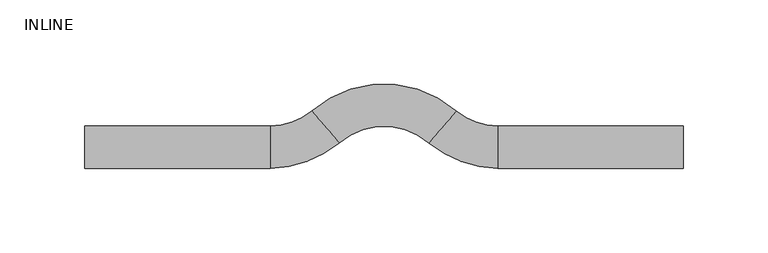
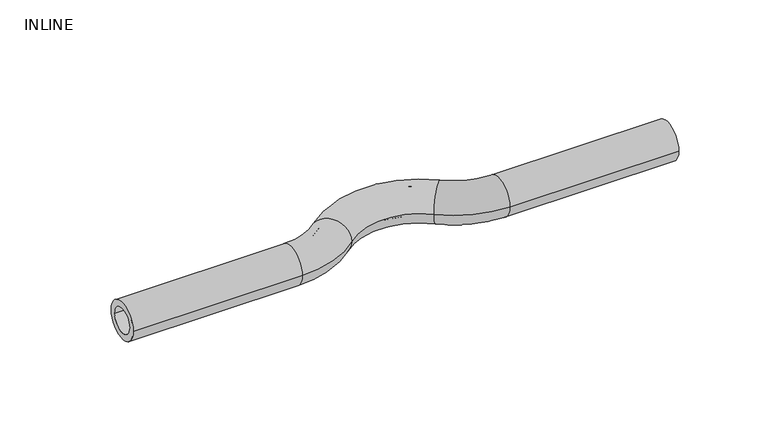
"""IFC4 building model written with IfcOpenShell, lengths in millimetres: pipe fitting geometry, Aquatherm - Cross Over : INLINE."""

from ifc_helpers import new_model, si_unit, point, frame, origin, place, context, project, spatial, polyline, circle_curve, ellipse_curve, trimmed, source, transform, mapped, element, save
from ifc_brep_helpers import plane_surface, cylinder_surface, revolved_surface, advanced_brep


def inline_d7b7e34d(model_context):
    return source(origin(), model_context, "Body", "AdvancedBrep", [
        advanced_brep(
        [(-176.53, -12.446, 0.0), (-176.53, 12.446, 0.0), (-176.53, -8.255, 0.0), (-176.53, 8.255, 0.0), (-67.1886415, -8.255, 0.0), (-67.1886415, 8.255, 0.0), (-67.1886415, -12.446, 0.0), (-67.1886415, 12.446, 0.0), (-39.9656575, 18.3405517, 0.0), (-29.2088553, 5.8157241, 0.0), (-42.6962303, 21.519931, 0.0), (-26.4782824, 2.6363448, 0.0), (39.9656575, 18.3405517, 0.0), (29.2088553, 5.8157241, 0.0), (42.6962303, 21.519931, 0.0), (26.4782824, 2.6363448, 0.0), (67.1886415, 8.255, 0.0), (67.1886415, -8.255, 0.0), (67.1886415, 12.446, 0.0), (67.1886415, -12.446, 0.0), (176.53, -12.446, 0.0), (176.53, 12.446, 0.0), (176.53, -8.255, 0.0), (176.53, 8.255, 0.0)],
        [
            (0, 1, circle_curve(frame((-176.53, 0.0, 0.0), z_axis=(-1.0, 0.0, 0.0), x_axis=(0.0, 1.0, 0.0)), 12.446)),
            (1, 0, circle_curve(frame((-176.53, 0.0, 0.0), z_axis=(-1.0, 0.0, 0.0), x_axis=(0.0, 1.0, 0.0)), 12.446)),
            (2, 3, circle_curve(frame((-176.53, 0.0, 0.0), z_axis=(1.0, 0.0, 0.0), x_axis=(0.0, 1.0, 0.0)), 8.255)),
            (3, 2, circle_curve(frame((-176.53, 0.0, 0.0), z_axis=(1.0, 0.0, 0.0), x_axis=(0.0, 1.0, 0.0)), 8.255)),
            (2, 4),
            (4, 5, circle_curve(frame((-67.1886415, 0.0, 0.0), z_axis=(1.0, 0.0, 0.0), x_axis=(0.0, 1.0, 0.0)), 8.255)),
            (5, 3),
            (5, 4, circle_curve(frame((-67.1886415, 0.0, 0.0), z_axis=(1.0, 0.0, 0.0), x_axis=(0.0, 1.0, 0.0)), 8.255)),
            (0, 6),
            (6, 7, circle_curve(frame((-67.1886415, 0.0, 0.0), z_axis=(-1.0, 0.0, 0.0), x_axis=(0.0, 1.0, 0.0)), 12.446)),
            (7, 1),
            (7, 6, circle_curve(frame((-67.1886415, 0.0, 0.0), z_axis=(-1.0, 0.0, 0.0), x_axis=(0.0, 1.0, 0.0)), 12.446)),
            (8, 5, circle_curve(frame((-67.1886415, 50.038, 0.0), z_axis=(0.0, 0.0, -1.0), x_axis=(0.0, -1.0, 0.0)), 41.783)),
            (4, 9, circle_curve(frame((-67.1886415, 50.038, 0.0), z_axis=(0.0, 0.0, 1.0), x_axis=(0.0, -1.0, 0.0)), 58.293)),
            (9, 8, circle_curve(frame((-34.5872564, 12.0781379, 0.0), z_axis=(0.7586206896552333, 0.651532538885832, 0.0), x_axis=(-0.651532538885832, 0.7586206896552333, 0.0)), 8.255)),
            (8, 9, circle_curve(frame((-34.5872564, 12.0781379, 0.0), z_axis=(0.7586206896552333, 0.651532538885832, 0.0), x_axis=(-0.651532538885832, 0.7586206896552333, 0.0)), 8.255)),
            (10, 7, circle_curve(frame((-67.1886415, 50.038, 0.0), z_axis=(0.0, 0.0, -1.0), x_axis=(0.0, -1.0, 0.0)), 37.592)),
            (6, 11, circle_curve(frame((-67.1886415, 50.038, 0.0), z_axis=(0.0, 0.0, 1.0), x_axis=(0.0, -1.0, 0.0)), 62.484)),
            (11, 10, circle_curve(frame((-34.5872564, 12.0781379, 0.0), z_axis=(-0.7586206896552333, -0.651532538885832, 0.0), x_axis=(-0.651532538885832, 0.7586206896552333, 0.0)), 12.446)),
            (10, 11, circle_curve(frame((-34.5872564, 12.0781379, 0.0), z_axis=(-0.7586206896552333, -0.651532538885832, 0.0), x_axis=(-0.651532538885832, 0.7586206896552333, 0.0)), 12.446)),
            (12, 8, circle_curve(frame((0.0, -28.194, 0.0), z_axis=(0.0, 0.0, 1.0), x_axis=(-0.6515325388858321, 0.7586206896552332, 0.0)), 61.341)),
            (9, 13, circle_curve(frame((0.0, -28.194, 0.0), z_axis=(0.0, 0.0, -1.0), x_axis=(-0.6515325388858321, 0.7586206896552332, 0.0)), 44.831)),
            (13, 12, circle_curve(frame((34.5872564, 12.0781379, 0.0), z_axis=(0.758620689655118, -0.6515325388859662, 0.0), x_axis=(0.6515325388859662, 0.758620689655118, 0.0)), 8.255)),
            (12, 13, circle_curve(frame((34.5872564, 12.0781379, 0.0), z_axis=(0.7586206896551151, -0.6515325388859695, 0.0), x_axis=(0.6515325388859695, 0.7586206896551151, 0.0)), 8.255)),
            (14, 10, circle_curve(frame((0.0, -28.194, 0.0), z_axis=(0.0, 0.0, 1.0), x_axis=(-0.6515325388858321, 0.7586206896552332, 0.0)), 65.532)),
            (11, 15, circle_curve(frame((0.0, -28.194, 0.0), z_axis=(0.0, 0.0, -1.0), x_axis=(-0.6515325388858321, 0.7586206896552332, 0.0)), 40.64)),
            (15, 14, circle_curve(frame((34.5872564, 12.0781379, 0.0), z_axis=(-0.7586206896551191, 0.651532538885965, 0.0), x_axis=(0.651532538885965, 0.7586206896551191, 0.0)), 12.446)),
            (14, 15, circle_curve(frame((34.5872564, 12.0781379, 0.0), z_axis=(-0.7586206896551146, 0.6515325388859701, 0.0), x_axis=(0.6515325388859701, 0.7586206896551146, 0.0)), 12.446)),
            (16, 12, circle_curve(frame((67.1886415, 50.038, 0.0), z_axis=(0.0, 0.0, -1.0), x_axis=(-0.6515325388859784, -0.7586206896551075, 0.0)), 41.783)),
            (13, 17, circle_curve(frame((67.1886415, 50.038, 0.0), z_axis=(0.0, 0.0, 1.0), x_axis=(-0.6515325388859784, -0.7586206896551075, 0.0)), 58.293)),
            (17, 16, circle_curve(frame((67.1886415, 0.0, 0.0), z_axis=(1.0, 0.0, 0.0), x_axis=(0.0, 1.0, 0.0)), 8.255)),
            (16, 17, circle_curve(frame((67.1886415, 0.0, 0.0), z_axis=(1.0, 0.0, 0.0), x_axis=(0.0, 1.0, 0.0)), 8.255)),
            (18, 14, circle_curve(frame((67.1886415, 50.038, 0.0), z_axis=(0.0, 0.0, -1.0), x_axis=(-0.6515325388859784, -0.7586206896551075, 0.0)), 37.592)),
            (15, 19, circle_curve(frame((67.1886415, 50.038, 0.0), z_axis=(0.0, 0.0, 1.0), x_axis=(-0.6515325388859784, -0.7586206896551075, 0.0)), 62.484)),
            (19, 18, circle_curve(frame((67.1886415, 0.0, 0.0), z_axis=(-1.0, 0.0, 0.0), x_axis=(0.0, 1.0, 0.0)), 12.446)),
            (18, 19, circle_curve(frame((67.1886415, 0.0, 0.0), z_axis=(-1.0, 0.0, 0.0), x_axis=(0.0, 1.0, 0.0)), 12.446)),
            (20, 21, circle_curve(frame((176.53, 0.0, 0.0), z_axis=(1.0, 0.0, 0.0), x_axis=(0.0, 1.0, 0.0)), 12.446)),
            (21, 20, circle_curve(frame((176.53, 0.0, 0.0), z_axis=(1.0, 0.0, 0.0), x_axis=(0.0, 1.0, 0.0)), 12.446)),
            (22, 23, circle_curve(frame((176.53, 0.0, 0.0), z_axis=(-1.0, 0.0, 0.0), x_axis=(0.0, 1.0, 0.0)), 8.255)),
            (23, 22, circle_curve(frame((176.53, 0.0, 0.0), z_axis=(-1.0, 0.0, 0.0), x_axis=(0.0, 1.0, 0.0)), 8.255)),
            (17, 22),
            (23, 16),
            (19, 20),
            (21, 18),
        ],
        [
            plane_surface(frame((-176.53, 0.0, 0.0), z_axis=(-1.0, 0.0, 0.0), x_axis=(0.0, 0.0, 1.0))),
            revolved_surface(polyline([(-67.1886415, 8.255, 0.0), (-176.53, 8.255, 0.0)]), (-176.53, 0.0, 0.0), (1.0, 0.0, 0.0)),
            cylinder_surface(frame((-176.53, 0.0, 0.0), z_axis=(-1.0, 0.0, 0.0), x_axis=(0.0, 1.0, 0.0)), 12.446),
            revolved_surface(trimmed(ellipse_curve(frame((-67.1886415, 0.0, 0.0), z_axis=(1.0, 0.0, 0.0), x_axis=(0.0, 1.0, 0.0)), 8.255, 8.255), [point((-67.1886415, -8.255, 0.0))], [point((-67.1886415, 8.255, 0.0))], True, "CARTESIAN"), (-67.1886415, 50.038, 0.0), (0.0, 0.0, 1.0)),
            revolved_surface(trimmed(ellipse_curve(frame((-67.1886415, 0.0, 0.0), z_axis=(1.0, 0.0, 0.0), x_axis=(0.0, 1.0, 0.0)), 8.255, 8.255), [point((-67.1886415, 8.255, 0.0))], [point((-67.1886415, -8.255, 0.0))], True, "CARTESIAN"), (-67.1886415, 50.038, 0.0), (0.0, 0.0, 1.0)),
            revolved_surface(trimmed(ellipse_curve(frame((-67.1886415, 0.0, 0.0), z_axis=(-1.0, 0.0, 0.0), x_axis=(0.0, 1.0, 0.0)), 12.446, 12.446), [point((-67.1886415, -12.446, 0.0))], [point((-67.1886415, 12.446, 0.0))], True, "CARTESIAN"), (-67.1886415, 50.038, 0.0), (0.0, 0.0, 1.0)),
            revolved_surface(trimmed(ellipse_curve(frame((-67.1886415, 0.0, 0.0), z_axis=(-1.0, 0.0, 0.0), x_axis=(0.0, 1.0, 0.0)), 12.446, 12.446), [point((-67.1886415, 12.446, 0.0))], [point((-67.1886415, -12.446, 0.0))], True, "CARTESIAN"), (-67.1886415, 50.038, 0.0), (0.0, 0.0, 1.0)),
            revolved_surface(trimmed(ellipse_curve(frame((-34.5872564, 12.0781379, 0.0), z_axis=(0.7586206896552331, 0.6515325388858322, 0.0), x_axis=(-0.6515325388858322, 0.7586206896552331, 0.0)), 8.255, 8.255), [point((-29.2088553, 5.8157241, 0.0))], [point((-39.9656575, 18.3405517, 0.0))], True, "CARTESIAN"), (0.0, -28.194, 0.0), (0.0, 0.0, -1.0)),
            revolved_surface(trimmed(ellipse_curve(frame((-34.5872564, 12.0781379, 0.0), z_axis=(0.7586206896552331, 0.6515325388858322, 0.0), x_axis=(-0.6515325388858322, 0.7586206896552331, 0.0)), 8.255, 8.255), [point((-39.9656575, 18.3405517, 0.0))], [point((-29.2088553, 5.8157241, 0.0))], True, "CARTESIAN"), (0.0, -28.194, 0.0), (0.0, 0.0, -1.0)),
            revolved_surface(trimmed(ellipse_curve(frame((-34.5872564, 12.0781379, 0.0), z_axis=(-0.7586206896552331, -0.6515325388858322, 0.0), x_axis=(-0.6515325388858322, 0.7586206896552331, 0.0)), 12.446, 12.446), [point((-26.4782824, 2.6363448, 0.0))], [point((-42.6962303, 21.519931, 0.0))], True, "CARTESIAN"), (0.0, -28.194, 0.0), (0.0, 0.0, -1.0)),
            revolved_surface(trimmed(ellipse_curve(frame((-34.5872564, 12.0781379, 0.0), z_axis=(-0.7586206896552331, -0.6515325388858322, 0.0), x_axis=(-0.6515325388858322, 0.7586206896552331, 0.0)), 12.446, 12.446), [point((-42.6962303, 21.519931, 0.0))], [point((-26.4782824, 2.6363448, 0.0))], True, "CARTESIAN"), (0.0, -28.194, 0.0), (0.0, 0.0, -1.0)),
            revolved_surface(trimmed(ellipse_curve(frame((34.5872564, 12.0781379, 0.0), z_axis=(0.7586206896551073, -0.6515325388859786, 0.0), x_axis=(0.6515325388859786, 0.7586206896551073, 0.0)), 8.255, 8.255), [point((29.2088553, 5.8157241, 0.0))], [point((39.9656575, 18.3405517, 0.0))], True, "CARTESIAN"), (67.1886415, 50.038, 0.0), (0.0, 0.0, 1.0)),
            revolved_surface(trimmed(ellipse_curve(frame((34.5872564, 12.0781379, 0.0), z_axis=(0.7586206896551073, -0.6515325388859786, 0.0), x_axis=(0.6515325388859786, 0.7586206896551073, 0.0)), 8.255, 8.255), [point((39.9656575, 18.3405517, 0.0))], [point((29.2088553, 5.8157241, 0.0))], True, "CARTESIAN"), (67.1886415, 50.038, 0.0), (0.0, 0.0, 1.0)),
            revolved_surface(trimmed(ellipse_curve(frame((34.5872564, 12.0781379, 0.0), z_axis=(-0.7586206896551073, 0.6515325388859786, 0.0), x_axis=(0.6515325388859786, 0.7586206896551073, 0.0)), 12.446, 12.446), [point((26.4782824, 2.6363448, 0.0))], [point((42.6962303, 21.519931, 0.0))], True, "CARTESIAN"), (67.1886415, 50.038, 0.0), (0.0, 0.0, 1.0)),
            revolved_surface(trimmed(ellipse_curve(frame((34.5872564, 12.0781379, 0.0), z_axis=(-0.7586206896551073, 0.6515325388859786, 0.0), x_axis=(0.6515325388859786, 0.7586206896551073, 0.0)), 12.446, 12.446), [point((42.6962303, 21.519931, 0.0))], [point((26.4782824, 2.6363448, 0.0))], True, "CARTESIAN"), (67.1886415, 50.038, 0.0), (0.0, 0.0, 1.0)),
            plane_surface(frame((176.53, 0.0, 0.0), z_axis=(1.0, 0.0, 0.0), x_axis=(0.0, 0.0, 1.0))),
            revolved_surface(polyline([(176.53, 8.255, 0.0), (67.1886415, 8.255, 0.0)]), (67.1886415, 0.0, 0.0), (1.0, 0.0, 0.0)),
            cylinder_surface(frame((67.1886415, 0.0, 0.0), z_axis=(-1.0, 0.0, 0.0), x_axis=(0.0, 1.0, 0.0)), 12.446),
        ],
        [
            (0, [[1, 2], [3, 4]]),
            (1, [[-3, 5, 6, 7]]),
            (1, [[-4, -7, 8, -5]]),
            (2, [[-1, 9, 10, 11]]),
            (2, [[-2, -11, 12, -9]]),
            (3, [[13, -6, 14, 15]]),
            (4, [[-14, -8, -13, 16]]),
            (5, [[17, -10, 18, 19]]),
            (6, [[-18, -12, -17, 20]]),
            (7, [[21, -15, 22, 23]]),
            (8, [[-22, -16, -21, 24]]),
            (9, [[25, -19, 26, 27]]),
            (10, [[-26, -20, -25, 28]]),
            (11, [[29, -23, 30, 31]]),
            (12, [[-30, -24, -29, 32]]),
            (13, [[33, -27, 34, 35]]),
            (14, [[-34, -28, -33, 36]]),
            (15, [[37, 38], [39, 40]]),
            (16, [[-31, 41, -40, 42]]),
            (16, [[-32, -42, -39, -41]]),
            (17, [[-35, 43, -38, 44]]),
            (17, [[-36, -44, -37, -43]]),
        ],
    ),
    ])


if __name__ == "__main__":
    model = new_model("IFC4")
    model_context = context("Model", 3, world=origin())
    ifc_project = project(units=[si_unit("LENGTHUNIT", "METRE", prefix="MILLI")], contexts=[model_context])
    site = spatial("IfcSite", under=ifc_project)
    building = spatial("IfcBuilding", under=site)
    placement = place(None, origin())
    inline_shape = inline_d7b7e34d(model_context)
    element("IfcPipeFitting", 1, ObjectType="Aquatherm - Cross Over : INLINE", at=placement, inside=building, context=model_context, shape_type="MappedRepresentation", body=[
        mapped(inline_shape, transform((0.0, 0.0, 0.0), x_axis=(1.0, 0.0, 0.0), y_axis=(0.0, 1.0, 0.0), z_axis=(0.0, 0.0, 1.0))),
    ])
    save(model, "model.ifc")
